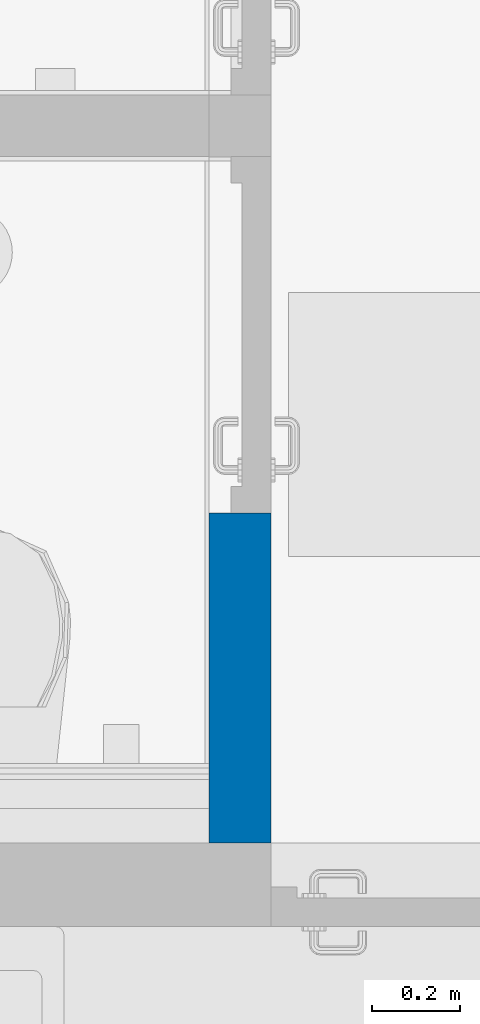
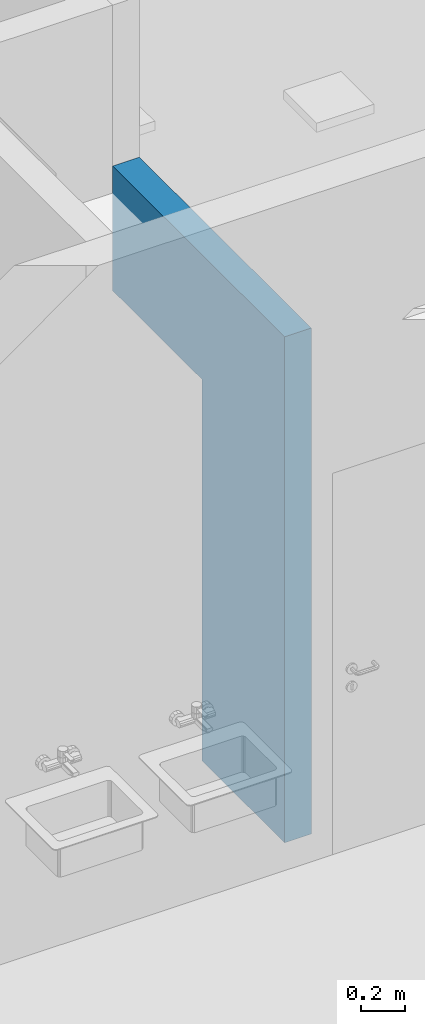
# One storey, part 10 of 301: 1 wall, 1 opening.
"""IFC2X3 building model written with IfcOpenShell, lengths in millimetres."""

from ifc_helpers import new_model, entity, si_unit, converted_unit, derived_unit, money_unit, direction, frame, origin_with_axes, place, context, subcontext, project, spatial, faceted_brep, material, type_object, element, save


model = new_model("IFC2X3")

# Units and contexts
model_context = context("Model", 3, precision=0.01, world=origin_with_axes(), true_north=direction((0.0, 1.0)))
body_context = subcontext(model_context, "Body", "Model", "MODEL_VIEW")
ifc_project = project(units=[si_unit("LENGTHUNIT", "METRE", prefix="MILLI"), si_unit("AREAUNIT", "SQUARE_METRE"), si_unit("VOLUMEUNIT", "CUBIC_METRE"), converted_unit("PLANEANGLEUNIT", "DEGREE", entity("IfcPlaneAngleMeasure", 0.0174532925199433), si_unit("PLANEANGLEUNIT", "RADIAN"), dimensions=[0, 0, 0, 0, 0, 0, 0]), money_unit("EUR"), converted_unit("TIMEUNIT", "Year", entity("IfcTimeMeasure", 31557600.0), si_unit("TIMEUNIT", "SECOND"), dimensions=[0, 0, 1, 0, 0, 0, 0]), si_unit("MASSUNIT", "GRAM", prefix="KILO"), si_unit("THERMODYNAMICTEMPERATUREUNIT", "DEGREE_CELSIUS"), si_unit("LUMINOUSINTENSITYUNIT", "LUMEN"), si_unit("ENERGYUNIT", "JOULE", prefix="MEGA"), derived_unit("THERMALCONDUCTANCEUNIT", [(si_unit("POWERUNIT", "WATT"), 1), (si_unit("LENGTHUNIT", "METRE"), -1), (si_unit("THERMODYNAMICTEMPERATUREUNIT", "KELVIN"), -1)]), derived_unit("SPECIFICHEATCAPACITYUNIT", [(si_unit("ENERGYUNIT", "JOULE"), 1), (si_unit("MASSUNIT", "GRAM", prefix="KILO"), -1), (si_unit("THERMODYNAMICTEMPERATUREUNIT", "KELVIN"), -1)]), derived_unit("MASSDENSITYUNIT", [(si_unit("MASSUNIT", "GRAM", prefix="KILO"), 1), (si_unit("VOLUMEUNIT", "CUBIC_METRE"), -1)])], contexts=[model_context])

# Site, building, storey
site_placement = place(None, frame((0.0, 0.0, 8650.0), z_axis=(0.0, 0.0, 1.0), x_axis=(1.0, 0.0, 0.0)))
site = spatial("IfcSite", under=ifc_project, at=site_placement, Name="43301:001:0844", CompositionType="ELEMENT")
building_placement = place(site_placement, origin_with_axes())
building = spatial("IfcBuilding", under=site, at=building_placement, Name="Kuressaare Ametikooli tuulikute mehaanikute õppekorpus", CompositionType="ELEMENT")
storey_placement = place(building_placement, origin_with_axes())
storey = spatial("IfcBuildingStorey", under=building, at=storey_placement, Name="1.korrus", CompositionType="ELEMENT", Elevation=0.0)

# Wall, opening
ifc_material = material(Name="Betoonõõnesplokk")
wall_type = type_object("IfcWallType", Name="SS-1.2 140", PredefinedType="NOTDEFINED")
wall_placement = place(storey_placement, frame((127545.2610406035, 21633.04131948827, 0.0), z_axis=(0.0, 0.0, 1.0), x_axis=(0.0, -1.0, 0.0)))
wall = element("IfcWall", 1, at=wall_placement, inside=storey, type_object=wall_type, material=ifc_material, Name="Sisesein", context=body_context, shape_type="Brep", body=[
    faceted_brep([(808.9725315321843, 140.0000000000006, 0.0), (808.9725315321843, 140.0000000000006, 2110.0), (0.0, 140.0000000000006, 2110.0), (0.0, 140.0000000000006, 2800.0), (1558.571478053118, 140.0000000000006, 2800.0), (1558.571478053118, 140.0000000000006, 0.0), (808.9725315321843, 0.0, 0.0), (808.9725315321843, 0.0, 2110.0), (0.0, 0.0, 2110.0), (0.0, 0.0, 2800.0), (1558.571478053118, 0.0, 2800.0), (1558.571478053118, 0.0, 0.0)], [[[0, 1, 2, 3, 4, 5]], [[1, 0, 6, 7]], [[8, 2, 1, 7]], [[2, 8, 9, 3]], [[10, 4, 3, 9]], [[4, 10, 11, 5]], [[6, 0, 5, 11]], [[7, 6, 11, 10, 9, 8]]]),
])
opening_placement = place(wall_placement, frame((403.9725315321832, 0.0, 0.0), z_axis=(0.0, 0.0, 1.0), x_axis=(1.0, 0.0, 0.0)))
element("IfcOpeningElement", 2, at=opening_placement, cuts=wall, Name="PU8", context=body_context, shape_type="Brep", body=[
    faceted_brep([(-405.0000000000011, -1.000000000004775, 2110.0), (-405.0000000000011, -1.000000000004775, 0.0), (405.0000000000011, -1.000000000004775, 0.0), (405.0000000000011, -1.000000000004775, 2110.0), (-405.0000000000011, 141.0000000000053, 2110.0), (-405.0000000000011, 141.0000000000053, 0.0), (405.0000000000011, 141.0000000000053, 0.0), (405.0000000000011, 141.0000000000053, 2110.0)], [[[0, 1, 2, 3]], [[4, 5, 1, 0]], [[5, 6, 2, 1]], [[6, 7, 3, 2]], [[7, 4, 0, 3]], [[6, 5, 4, 7]]]),
])

save(model, "model.ifc")
